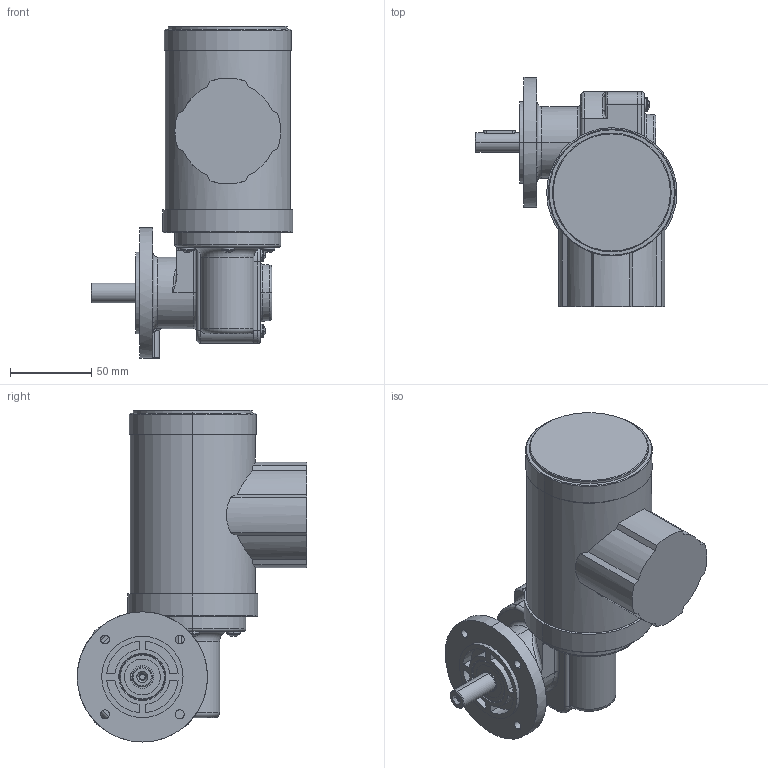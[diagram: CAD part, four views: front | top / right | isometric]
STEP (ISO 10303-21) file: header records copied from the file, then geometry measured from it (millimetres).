
FILE_DESCRIPTION (( 'STEP AP214' ), '1' );
FILE_NAME ('SN5FR_90W_3000Upm_C.STEP', '2021-03-04T09:35:30', ( '' ), ( '' ), 'SwSTEP 2.0', 'SolidWorks 2019', '' );
FILE_SCHEMA (( 'AUTOMOTIVE_DESIGN' ));
Length unit declared in the file: millimetre
Products named in the file (1): SN5FR_90W_3000Upm_C
Bounding box: 124 x 141 x 204 mm (x, y, z)
Surface area: 88423.4 mm2 (no closed solid volume)
Topology: 0 solids, 14 shells, 353 faces, 989 edges, 655 vertices
Faces by surface type: plane 134, cylinder 104, torus 44, cone 42, sphere 16, bspline 13
Entity records: 16746 total; most frequent: CARTESIAN_POINT 3686, DIRECTION 2058, ORIENTED_EDGE 1763, EDGE_CURVE 988, AXIS2_PLACEMENT_3D 856, VERTEX_POINT 655, CIRCLE 515, EDGE_LOOP 399
